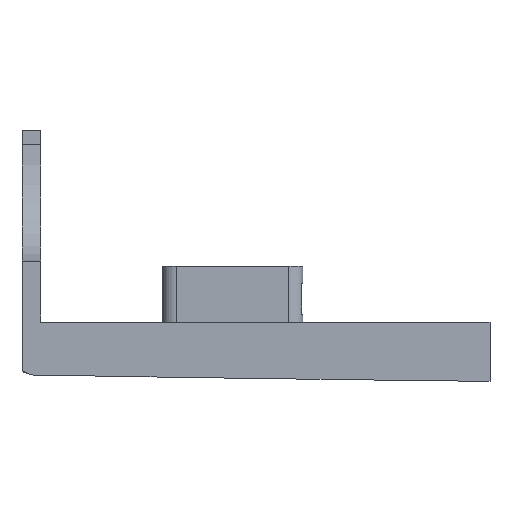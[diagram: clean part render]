
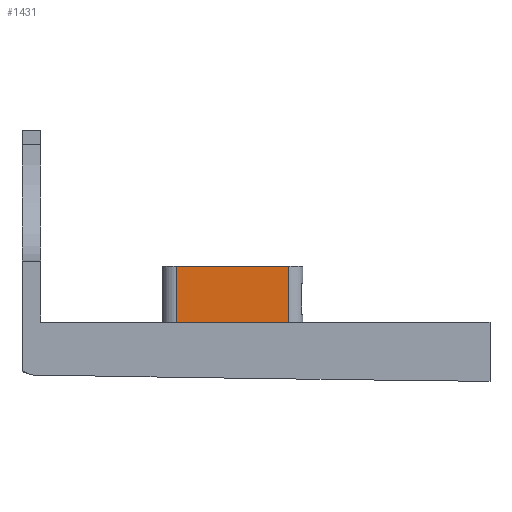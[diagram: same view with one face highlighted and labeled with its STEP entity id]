
A CAD part, top view. The second image highlights one B-rep face of the part: STEP entity #1431.
In plain terms, the highlighted planar face has unit normal (0, 0, 1).
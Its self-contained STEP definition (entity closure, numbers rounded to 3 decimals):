
#411 = PLANE('',#412);
#412 = AXIS2_PLACEMENT_3D('',#413,#414,#415);
#413 = CARTESIAN_POINT('',(-150.,-22.2,-200.));
#414 = DIRECTION('',(0.,1.,0.));
#415 = DIRECTION('',(0.,0.,1.));
#1060 = VERTEX_POINT('',#1061);
#1061 = CARTESIAN_POINT('',(-40.6,-22.2,-28.5));
#1076 = CYLINDRICAL_SURFACE('',#1077,0.6);
#1077 = AXIS2_PLACEMENT_3D('',#1078,#1079,#1080);
#1078 = CARTESIAN_POINT('',(-40.6,-19.8,-29.1));
#1079 = DIRECTION('',(0.,1.,0.));
#1080 = DIRECTION('',(1.,0.,0.));
#1088 = EDGE_CURVE('',#1089,#1060,#1091,.T.);
#1089 = VERTEX_POINT('',#1090);
#1090 = CARTESIAN_POINT('',(-45.4,-22.2,-28.5));
#1091 = SURFACE_CURVE('',#1092,(#1096,#1102),.PCURVE_S1.);
#1092 = LINE('',#1093,#1094);
#1093 = CARTESIAN_POINT('',(-97.7,-22.2,-28.5));
#1094 = VECTOR('',#1095,1.);
#1095 = DIRECTION('',(1.,-0.,0.));
#1096 = PCURVE('',#411,#1097);
#1097 = DEFINITIONAL_REPRESENTATION('',(#1098),#1101);
#1098 = B_SPLINE_CURVE_WITH_KNOTS('',1,(#1099,#1100),.UNSPECIFIED.,.F.,
  .F.,(2,2),(52.3,57.1),.PIECEWISE_BEZIER_KNOTS.);
#1099 = CARTESIAN_POINT('',(171.5,104.6));
#1100 = CARTESIAN_POINT('',(171.5,109.4));
#1101 = ( GEOMETRIC_REPRESENTATION_CONTEXT(2) 
PARAMETRIC_REPRESENTATION_CONTEXT() REPRESENTATION_CONTEXT('2D SPACE',''
  ) );
#1102 = PCURVE('',#1103,#1108);
#1103 = PLANE('',#1104);
#1104 = AXIS2_PLACEMENT_3D('',#1105,#1106,#1107);
#1105 = CARTESIAN_POINT('',(-45.4,-19.8,-28.5));
#1106 = DIRECTION('',(0.,0.,1.));
#1107 = DIRECTION('',(1.,0.,0.));
#1108 = DEFINITIONAL_REPRESENTATION('',(#1109),#1112);
#1109 = B_SPLINE_CURVE_WITH_KNOTS('',1,(#1110,#1111),.UNSPECIFIED.,.F.,
  .F.,(2,2),(52.3,57.1),.PIECEWISE_BEZIER_KNOTS.);
#1110 = CARTESIAN_POINT('',(0.,-2.4));
#1111 = CARTESIAN_POINT('',(4.8,-2.4));
#1112 = ( GEOMETRIC_REPRESENTATION_CONTEXT(2) 
PARAMETRIC_REPRESENTATION_CONTEXT() REPRESENTATION_CONTEXT('2D SPACE',''
  ) );
#1129 = CYLINDRICAL_SURFACE('',#1130,0.6);
#1130 = AXIS2_PLACEMENT_3D('',#1131,#1132,#1133);
#1131 = CARTESIAN_POINT('',(-45.4,-19.8,-29.1));
#1132 = DIRECTION('',(0.,1.,0.));
#1133 = DIRECTION('',(1.,0.,0.));
#1228 = PLANE('',#1229);
#1229 = AXIS2_PLACEMENT_3D('',#1230,#1231,#1232);
#1230 = CARTESIAN_POINT('',(-43.,-19.8,-31.));
#1231 = DIRECTION('',(0.,-1.,0.));
#1232 = DIRECTION('',(1.,0.,0.));
#1337 = VERTEX_POINT('',#1338);
#1338 = CARTESIAN_POINT('',(-45.4,-19.8,-28.5));
#1360 = EDGE_CURVE('',#1337,#1089,#1361,.T.);
#1361 = SURFACE_CURVE('',#1362,(#1366,#1373),.PCURVE_S1.);
#1362 = LINE('',#1363,#1364);
#1363 = CARTESIAN_POINT('',(-45.4,-19.8,-28.5));
#1364 = VECTOR('',#1365,1.);
#1365 = DIRECTION('',(0.,-1.,0.));
#1366 = PCURVE('',#1129,#1367);
#1367 = DEFINITIONAL_REPRESENTATION('',(#1368),#1372);
#1368 = LINE('',#1369,#1370);
#1369 = CARTESIAN_POINT('',(-1.571,0.));
#1370 = VECTOR('',#1371,1.);
#1371 = DIRECTION('',(-0.,-1.));
#1372 = ( GEOMETRIC_REPRESENTATION_CONTEXT(2) 
PARAMETRIC_REPRESENTATION_CONTEXT() REPRESENTATION_CONTEXT('2D SPACE',''
  ) );
#1373 = PCURVE('',#1103,#1374);
#1374 = DEFINITIONAL_REPRESENTATION('',(#1375),#1379);
#1375 = LINE('',#1376,#1377);
#1376 = CARTESIAN_POINT('',(0.,0.));
#1377 = VECTOR('',#1378,1.);
#1378 = DIRECTION('',(0.,-1.));
#1379 = ( GEOMETRIC_REPRESENTATION_CONTEXT(2) 
PARAMETRIC_REPRESENTATION_CONTEXT() REPRESENTATION_CONTEXT('2D SPACE',''
  ) );
#1431 = ADVANCED_FACE('',(#1432),#1103,.T.);
#1432 = FACE_BOUND('',#1433,.T.);
#1433 = EDGE_LOOP('',(#1434,#1457,#1458,#1459));
#1434 = ORIENTED_EDGE('',*,*,#1435,.F.);
#1435 = EDGE_CURVE('',#1337,#1436,#1438,.T.);
#1436 = VERTEX_POINT('',#1437);
#1437 = CARTESIAN_POINT('',(-40.6,-19.8,-28.5));
#1438 = SURFACE_CURVE('',#1439,(#1443,#1450),.PCURVE_S1.);
#1439 = LINE('',#1440,#1441);
#1440 = CARTESIAN_POINT('',(-43.,-19.8,-28.5));
#1441 = VECTOR('',#1442,1.);
#1442 = DIRECTION('',(1.,0.,0.));
#1443 = PCURVE('',#1103,#1444);
#1444 = DEFINITIONAL_REPRESENTATION('',(#1445),#1449);
#1445 = LINE('',#1446,#1447);
#1446 = CARTESIAN_POINT('',(2.4,0.));
#1447 = VECTOR('',#1448,1.);
#1448 = DIRECTION('',(1.,0.));
#1449 = ( GEOMETRIC_REPRESENTATION_CONTEXT(2) 
PARAMETRIC_REPRESENTATION_CONTEXT() REPRESENTATION_CONTEXT('2D SPACE',''
  ) );
#1450 = PCURVE('',#1228,#1451);
#1451 = DEFINITIONAL_REPRESENTATION('',(#1452),#1456);
#1452 = LINE('',#1453,#1454);
#1453 = CARTESIAN_POINT('',(0.,2.5));
#1454 = VECTOR('',#1455,1.);
#1455 = DIRECTION('',(1.,0.));
#1456 = ( GEOMETRIC_REPRESENTATION_CONTEXT(2) 
PARAMETRIC_REPRESENTATION_CONTEXT() REPRESENTATION_CONTEXT('2D SPACE',''
  ) );
#1457 = ORIENTED_EDGE('',*,*,#1360,.T.);
#1458 = ORIENTED_EDGE('',*,*,#1088,.T.);
#1459 = ORIENTED_EDGE('',*,*,#1460,.F.);
#1460 = EDGE_CURVE('',#1436,#1060,#1461,.T.);
#1461 = SURFACE_CURVE('',#1462,(#1466,#1473),.PCURVE_S1.);
#1462 = LINE('',#1463,#1464);
#1463 = CARTESIAN_POINT('',(-40.6,-19.8,-28.5));
#1464 = VECTOR('',#1465,1.);
#1465 = DIRECTION('',(0.,-1.,0.));
#1466 = PCURVE('',#1103,#1467);
#1467 = DEFINITIONAL_REPRESENTATION('',(#1468),#1472);
#1468 = LINE('',#1469,#1470);
#1469 = CARTESIAN_POINT('',(4.8,0.));
#1470 = VECTOR('',#1471,1.);
#1471 = DIRECTION('',(0.,-1.));
#1472 = ( GEOMETRIC_REPRESENTATION_CONTEXT(2) 
PARAMETRIC_REPRESENTATION_CONTEXT() REPRESENTATION_CONTEXT('2D SPACE',''
  ) );
#1473 = PCURVE('',#1076,#1474);
#1474 = DEFINITIONAL_REPRESENTATION('',(#1475),#1479);
#1475 = LINE('',#1476,#1477);
#1476 = CARTESIAN_POINT('',(-1.571,0.));
#1477 = VECTOR('',#1478,1.);
#1478 = DIRECTION('',(-0.,-1.));
#1479 = ( GEOMETRIC_REPRESENTATION_CONTEXT(2) 
PARAMETRIC_REPRESENTATION_CONTEXT() REPRESENTATION_CONTEXT('2D SPACE',''
  ) );
